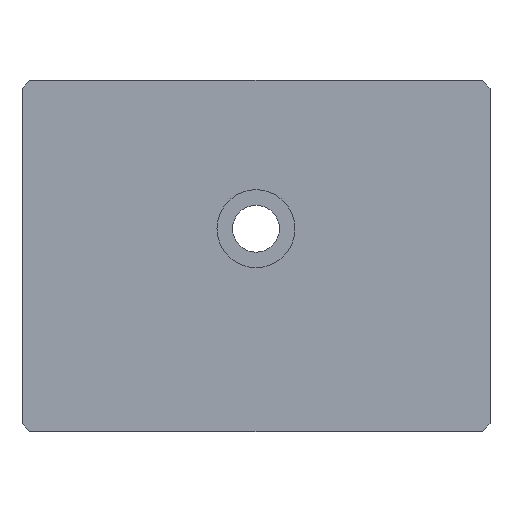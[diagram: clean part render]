
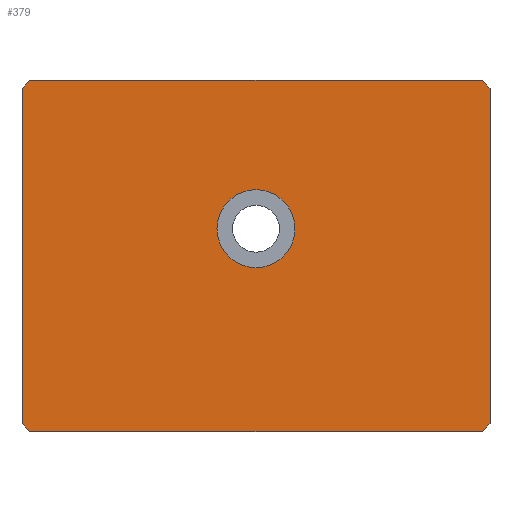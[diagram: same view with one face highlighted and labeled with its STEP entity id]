
A CAD part, left-side view. The second image highlights one B-rep face of the part: STEP entity #379.
In plain terms, the highlighted planar face has unit normal (-1, 0, 0).
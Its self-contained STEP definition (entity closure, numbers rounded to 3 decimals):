
#211=CARTESIAN_POINT('Vertex',(0.,-30.,21.5)) ;
#214=CARTESIAN_POINT('Line Origine',(0.,-30.,0.)) ;
#218=CARTESIAN_POINT('Vertex',(0.,-30.,-21.5)) ;
#242=CARTESIAN_POINT('Vertex',(0.,-29.,-22.5)) ;
#245=CARTESIAN_POINT('Line Origine',(0.,0.,-22.5)) ;
#249=CARTESIAN_POINT('Vertex',(0.,29.,-22.5)) ;
#273=CARTESIAN_POINT('Vertex',(0.,30.,-21.5)) ;
#276=CARTESIAN_POINT('Line Origine',(0.,30.,0.)) ;
#280=CARTESIAN_POINT('Vertex',(0.,30.,21.5)) ;
#304=CARTESIAN_POINT('Vertex',(0.,-29.,22.5)) ;
#311=CARTESIAN_POINT('Vertex',(0.,29.,22.5)) ;
#314=CARTESIAN_POINT('Line Origine',(0.,0.,22.5)) ;
#326=CARTESIAN_POINT('Axis2P3D Location',(0.,0.,0.)) ;
#331=CARTESIAN_POINT('Line Origine',(0.,-29.5,22.)) ;
#336=CARTESIAN_POINT('Line Origine',(0.,29.5,22.)) ;
#341=CARTESIAN_POINT('Line Origine',(0.,29.5,-22.)) ;
#346=CARTESIAN_POINT('Line Origine',(0.,-29.5,-22.)) ;
#361=CARTESIAN_POINT('Axis2P3D Location',(0.,0.,3.5)) ;
#365=CARTESIAN_POINT('Vertex',(0.,-5.,3.5)) ;
#367=CARTESIAN_POINT('Vertex',(0.,5.,3.5)) ;
#370=CARTESIAN_POINT('Axis2P3D Location',(0.,0.,3.5)) ;
#216=VECTOR('Line Direction',#215,1.) ;
#247=VECTOR('Line Direction',#246,1.) ;
#278=VECTOR('Line Direction',#277,1.) ;
#316=VECTOR('Line Direction',#315,1.) ;
#333=VECTOR('Line Direction',#332,1.) ;
#338=VECTOR('Line Direction',#337,1.) ;
#343=VECTOR('Line Direction',#342,1.) ;
#348=VECTOR('Line Direction',#347,1.) ;
#215=DIRECTION('Vector Direction',(0.,0.,1.)) ;
#246=DIRECTION('Vector Direction',(0.,-1.,0.)) ;
#277=DIRECTION('Vector Direction',(0.,0.,-1.)) ;
#315=DIRECTION('Vector Direction',(0.,1.,0.)) ;
#327=DIRECTION('Axis2P3D Direction',(1.,0.,0.)) ;
#328=DIRECTION('Axis2P3D XDirection',(0.,1.,0.)) ;
#332=DIRECTION('Vector Direction',(0.,0.707,0.707)) ;
#337=DIRECTION('Vector Direction',(0.,0.707,-0.707)) ;
#342=DIRECTION('Vector Direction',(0.,-0.707,-0.707)) ;
#347=DIRECTION('Vector Direction',(0.,0.707,-0.707)) ;
#362=DIRECTION('Axis2P3D Direction',(1.,0.,0.)) ;
#371=DIRECTION('Axis2P3D Direction',(1.,0.,0.)) ;
#329=AXIS2_PLACEMENT_3D('Plane Axis2P3D',#326,#327,#328) ;
#363=AXIS2_PLACEMENT_3D('Circle Axis2P3D',#361,#362,$) ;
#372=AXIS2_PLACEMENT_3D('Circle Axis2P3D',#370,#371,$) ;
#217=LINE('Line',#214,#216) ;
#248=LINE('Line',#245,#247) ;
#279=LINE('Line',#276,#278) ;
#317=LINE('Line',#314,#316) ;
#334=LINE('Line',#331,#333) ;
#339=LINE('Line',#336,#338) ;
#344=LINE('Line',#341,#343) ;
#349=LINE('Line',#346,#348) ;
#364=CIRCLE('generated circle',#363,5.) ;
#373=CIRCLE('generated circle',#372,5.) ;
#330=PLANE('',#329) ;
#378=FACE_BOUND('',#375,.T.) ;
#220=EDGE_CURVE('',#212,#219,#217,.F.) ;
#251=EDGE_CURVE('',#243,#250,#248,.F.) ;
#282=EDGE_CURVE('',#274,#281,#279,.F.) ;
#318=EDGE_CURVE('',#312,#305,#317,.F.) ;
#335=EDGE_CURVE('',#305,#212,#334,.F.) ;
#340=EDGE_CURVE('',#281,#312,#339,.F.) ;
#345=EDGE_CURVE('',#250,#274,#344,.F.) ;
#350=EDGE_CURVE('',#219,#243,#349,.T.) ;
#369=EDGE_CURVE('',#366,#368,#364,.T.) ;
#374=EDGE_CURVE('',#368,#366,#373,.T.) ;
#351=EDGE_LOOP('',(#352,#353,#354,#355,#356,#357,#358,#359)) ;
#375=EDGE_LOOP('',(#376,#377)) ;
#352=ORIENTED_EDGE('',*,*,#335,.F.) ;
#353=ORIENTED_EDGE('',*,*,#318,.F.) ;
#354=ORIENTED_EDGE('',*,*,#340,.F.) ;
#355=ORIENTED_EDGE('',*,*,#282,.F.) ;
#356=ORIENTED_EDGE('',*,*,#345,.F.) ;
#357=ORIENTED_EDGE('',*,*,#251,.F.) ;
#358=ORIENTED_EDGE('',*,*,#350,.F.) ;
#359=ORIENTED_EDGE('',*,*,#220,.F.) ;
#376=ORIENTED_EDGE('',*,*,#369,.T.) ;
#377=ORIENTED_EDGE('',*,*,#374,.T.) ;
#212=VERTEX_POINT('',#211) ;
#219=VERTEX_POINT('',#218) ;
#243=VERTEX_POINT('',#242) ;
#250=VERTEX_POINT('',#249) ;
#274=VERTEX_POINT('',#273) ;
#281=VERTEX_POINT('',#280) ;
#305=VERTEX_POINT('',#304) ;
#312=VERTEX_POINT('',#311) ;
#366=VERTEX_POINT('',#365) ;
#368=VERTEX_POINT('',#367) ;
#379=ADVANCED_FACE('PartBody',(#360,#378),#330,.F.) ;
#360=FACE_OUTER_BOUND('',#351,.T.) ;
